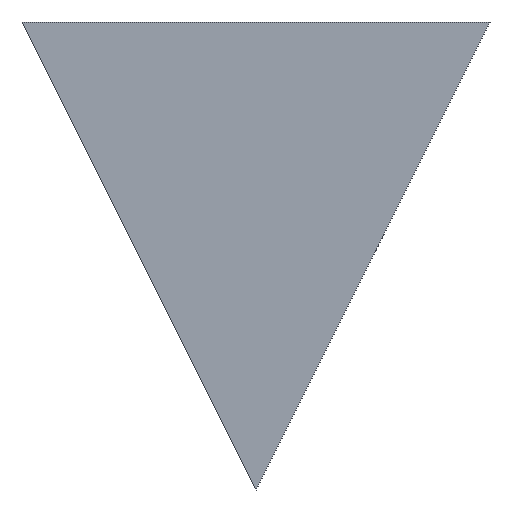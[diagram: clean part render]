
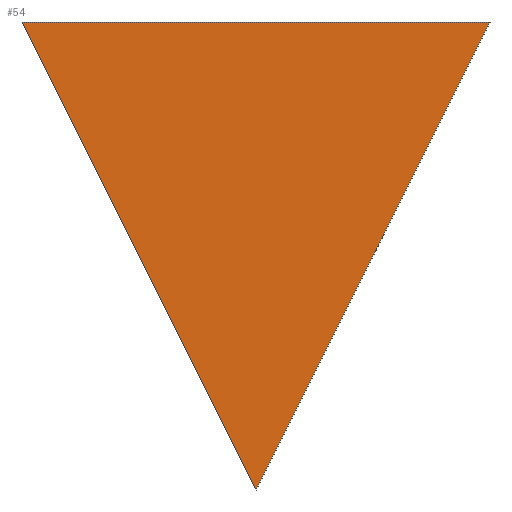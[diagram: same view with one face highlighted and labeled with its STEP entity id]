
A CAD part, front view. The second image highlights one B-rep face of the part: STEP entity #54.
In plain terms, the highlighted planar face has unit normal (0, -1, 0).
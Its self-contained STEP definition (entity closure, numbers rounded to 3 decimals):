
#54=ADVANCED_FACE('',(#64),#65,.F.);
#64=FACE_OUTER_BOUND('',#75,.T.);
#65=PLANE('',#76);
#75=EDGE_LOOP('',(#101,#102,#103));
#76=AXIS2_PLACEMENT_3D('',#104,#105,#106);
#101=ORIENTED_EDGE('',*,*,#122,.F.);
#102=ORIENTED_EDGE('',*,*,#116,.F.);
#103=ORIENTED_EDGE('',*,*,#120,.F.);
#104=CARTESIAN_POINT('',(176.,-0.5,-2.536));
#105=DIRECTION('',(0.,1.0,0.));
#106=DIRECTION('',(0.,0.,-1.0));
#116=EDGE_CURVE('',#126,#128,#129,.T.);
#120=EDGE_CURVE('',#133,#126,#135,.T.);
#122=EDGE_CURVE('',#128,#133,#137,.T.);
#126=VERTEX_POINT('',#142);
#128=VERTEX_POINT('',#145);
#129=LINE('',#146,#147);
#133=VERTEX_POINT('',#153);
#135=LINE('',#156,#157);
#137=LINE('',#160,#161);
#142=CARTESIAN_POINT('',(176.,-0.5,-4.5));
#145=CARTESIAN_POINT('',(174.5,-0.5,-1.5));
#146=CARTESIAN_POINT('',(176.,-0.5,-4.5));
#147=VECTOR('',#164,1.0);
#153=CARTESIAN_POINT('',(177.5,-0.5,-1.5));
#156=CARTESIAN_POINT('',(177.5,-0.5,-1.5));
#157=VECTOR('',#168,1.0);
#160=CARTESIAN_POINT('',(174.5,-0.5,-1.5));
#161=VECTOR('',#170,1.0);
#164=DIRECTION('',(-0.447,0.,0.894));
#168=DIRECTION('',(-0.447,0.,-0.894));
#170=DIRECTION('',(1.0,0.,0.));
